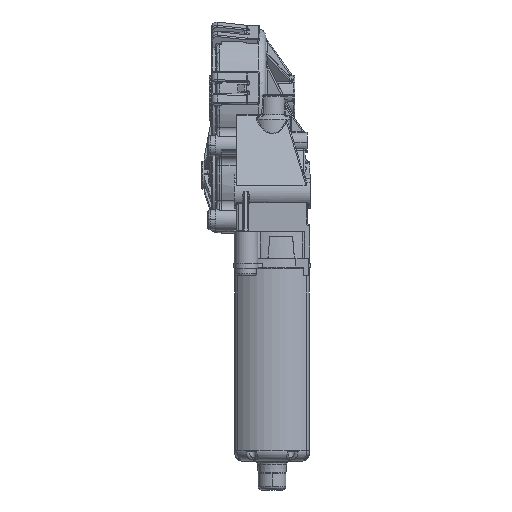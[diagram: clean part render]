
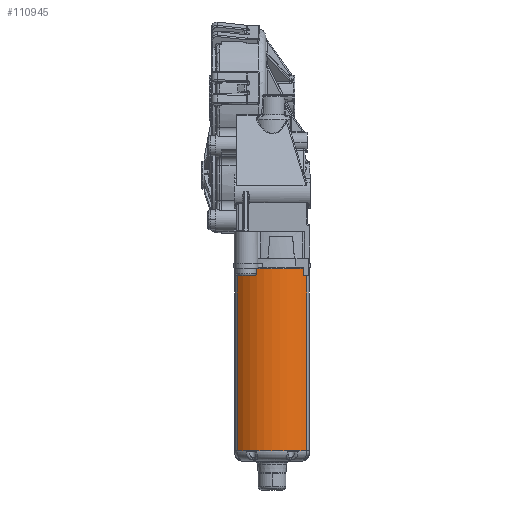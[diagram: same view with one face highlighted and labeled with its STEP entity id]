
A CAD part, front view. The second image highlights one B-rep face of the part: STEP entity #110945.
In plain terms, the highlighted cylindrical face has radius 19.525 mm (diameter 39.05 mm), a partial arc.
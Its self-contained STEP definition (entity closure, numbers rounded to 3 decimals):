
#30591=CARTESIAN_POINT('',(0.,0.,-74.401));
#30592=DIRECTION('',(0.,0.,1.));
#30593=DIRECTION('',(-0.709,-0.705,0.));
#30594=AXIS2_PLACEMENT_3D('',#30591,#30592,#30593);
#30596=CARTESIAN_POINT('',(0.,0.,-2.2));
#30597=DIRECTION('',(0.,0.,-1.));
#30598=DIRECTION('',(0.709,-0.705,0.));
#30599=AXIS2_PLACEMENT_3D('',#30596,#30597,#30598);
#30601=DIRECTION('',(0.,0.,1.));
#30602=VECTOR('',#30601,72.201);
#30603=CARTESIAN_POINT('',(13.839,-13.773,
-74.401));
#30604=LINE('25449',#30603,#30602);
#31789=DIRECTION('',(0.,0.,1.));
#31790=VECTOR('',#31789,72.201);
#31791=CARTESIAN_POINT('',(-13.839,-13.773,
-74.401));
#31792=LINE('25451',#31791,#31790);
#45994=CARTESIAN_POINT('',(13.839,-13.773,
-74.401));
#45996=VERTEX_POINT('',#45994);
#46001=CARTESIAN_POINT('',(13.839,-13.773,
-2.2));
#46002=VERTEX_POINT('',#46001);
#46005=CARTESIAN_POINT('',(-13.839,-13.773,-2.2));
#46006=VERTEX_POINT('',#46005);
#46098=CARTESIAN_POINT('',(-13.839,-13.773,
-74.401));
#46100=VERTEX_POINT('',#46098);
#110932=CARTESIAN_POINT('',(0.,0.,-0.756));
#110933=DIRECTION('',(0.,0.,-1.));
#110934=DIRECTION('',(-1.,0.,0.));
#110935=AXIS2_PLACEMENT_3D('',#110932,#110933,#110934);
#110936=CYLINDRICAL_SURFACE('31885',#110935,19.525);
#110938=ORIENTED_EDGE('25450',*,*,#110937,.F.);
#110940=ORIENTED_EDGE('25451',*,*,#110939,.T.);
#110941=ORIENTED_EDGE('25463',*,*,#51019,.F.);
#110942=ORIENTED_EDGE('25449',*,*,#110918,.F.);
#110943=EDGE_LOOP('31885',(#110938,#110940,#110941,#110942));
#110944=FACE_OUTER_BOUND('31885',#110943,.F.);
#110945=ADVANCED_FACE('31885',(#110944),#110936,.T.);
#30595=CIRCLE('25450',#30594,19.525);
#30600=CIRCLE('25463',#30599,19.525);
#51019=EDGE_CURVE('25463',#46002,#46006,#30600,.T.);
#110918=EDGE_CURVE('25449',#45996,#46002,#30604,.T.);
#110937=EDGE_CURVE('25450',#46100,#45996,#30595,.T.);
#110939=EDGE_CURVE('25451',#46100,#46006,#31792,.T.);
